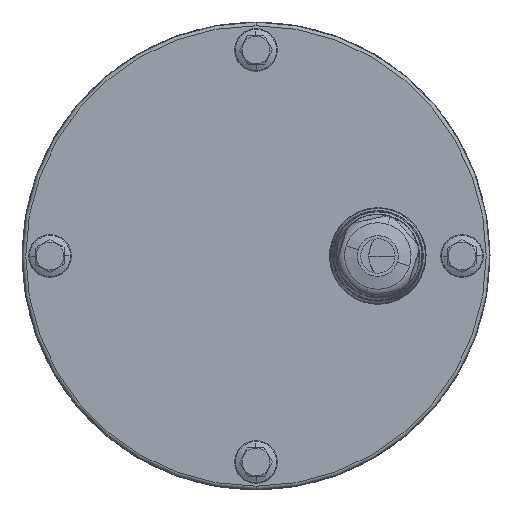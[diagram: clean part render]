
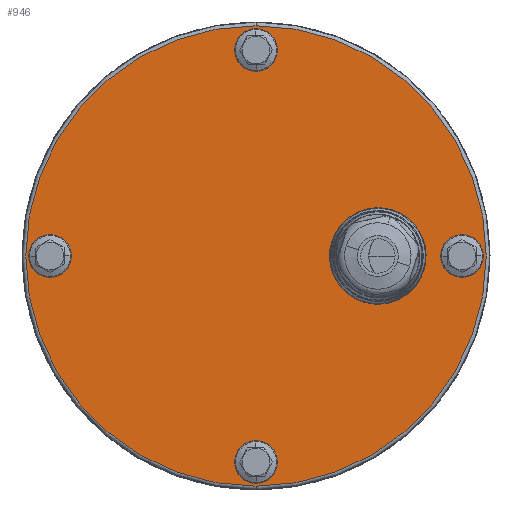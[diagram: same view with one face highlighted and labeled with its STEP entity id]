
A CAD part, left-side view. The second image highlights one B-rep face of the part: STEP entity #946.
In plain terms, the highlighted planar face has unit normal (-1, 0, 0).
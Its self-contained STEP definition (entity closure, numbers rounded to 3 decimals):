
#946=ADVANCED_FACE('',(#2327,#2328,#2329,#2330,#2331,#2332),#2333,.F.);
#2327=FACE_OUTER_BOUND('',#7701,.T.);
#2328=FACE_BOUND('',#7702,.T.);
#2329=FACE_BOUND('',#7703,.T.);
#2330=FACE_BOUND('',#7704,.T.);
#2331=FACE_BOUND('',#7705,.T.);
#2332=FACE_BOUND('',#7706,.T.);
#2333=PLANE('',#7707);
#7701=EDGE_LOOP('',(#13036,#13037));
#7702=EDGE_LOOP('',(#13038,#13039));
#7703=EDGE_LOOP('',(#13040,#13041));
#7704=EDGE_LOOP('',(#13042,#13043));
#7705=EDGE_LOOP('',(#13044,#13045));
#7706=EDGE_LOOP('',(#13046,#13047));
#7707=AXIS2_PLACEMENT_3D('',#13048,#13049,#13050);
#13036=ORIENTED_EDGE('',*,*,#16029,.T.);
#13037=ORIENTED_EDGE('',*,*,#16030,.T.);
#13038=ORIENTED_EDGE('',*,*,#16031,.F.);
#13039=ORIENTED_EDGE('',*,*,#16032,.F.);
#13040=ORIENTED_EDGE('',*,*,#16033,.F.);
#13041=ORIENTED_EDGE('',*,*,#16034,.F.);
#13042=ORIENTED_EDGE('',*,*,#16035,.F.);
#13043=ORIENTED_EDGE('',*,*,#16036,.F.);
#13044=ORIENTED_EDGE('',*,*,#16037,.F.);
#13045=ORIENTED_EDGE('',*,*,#16038,.F.);
#13046=ORIENTED_EDGE('',*,*,#16039,.T.);
#13047=ORIENTED_EDGE('',*,*,#16040,.T.);
#13048=CARTESIAN_POINT('',(-96.5,0.,0.));
#13049=DIRECTION('',(1.0,0.,0.));
#13050=DIRECTION('',(0.,1.0,0.));
#16029=EDGE_CURVE('',#18552,#18553,#18554,.T.);
#16030=EDGE_CURVE('',#18553,#18552,#18555,.T.);
#16031=EDGE_CURVE('',#18556,#18557,#18558,.T.);
#16032=EDGE_CURVE('',#18557,#18556,#18559,.T.);
#16033=EDGE_CURVE('',#18560,#18561,#18562,.T.);
#16034=EDGE_CURVE('',#18561,#18560,#18563,.T.);
#16035=EDGE_CURVE('',#18564,#18565,#18566,.T.);
#16036=EDGE_CURVE('',#18565,#18564,#18567,.T.);
#16037=EDGE_CURVE('',#18568,#18569,#18570,.T.);
#16038=EDGE_CURVE('',#18569,#18568,#18571,.T.);
#16039=EDGE_CURVE('',#18572,#18573,#18574,.T.);
#16040=EDGE_CURVE('',#18573,#18572,#18575,.T.);
#18552=VERTEX_POINT('',#25336);
#18553=VERTEX_POINT('',#25337);
#18554=CIRCLE('',#25338,64.25);
#18555=CIRCLE('',#25339,64.25);
#18556=VERTEX_POINT('',#25340);
#18557=VERTEX_POINT('',#25341);
#18558=CIRCLE('',#25342,4.75);
#18559=CIRCLE('',#25343,4.75);
#18560=VERTEX_POINT('',#25344);
#18561=VERTEX_POINT('',#25345);
#18562=CIRCLE('',#25346,4.75);
#18563=CIRCLE('',#25347,4.75);
#18564=VERTEX_POINT('',#25348);
#18565=VERTEX_POINT('',#25349);
#18566=CIRCLE('',#25350,4.75);
#18567=CIRCLE('',#25351,4.75);
#18568=VERTEX_POINT('',#25352);
#18569=VERTEX_POINT('',#25353);
#18570=CIRCLE('',#25354,4.75);
#18571=CIRCLE('',#25355,4.75);
#18572=VERTEX_POINT('',#25356);
#18573=VERTEX_POINT('',#25357);
#18574=CIRCLE('',#25358,7.45);
#18575=CIRCLE('',#25359,7.45);
#25336=CARTESIAN_POINT('',(-96.5,0.0,-64.25));
#25337=CARTESIAN_POINT('',(-96.5,0.,64.25));
#25338=AXIS2_PLACEMENT_3D('',#29285,#29286,#29287);
#25339=AXIS2_PLACEMENT_3D('',#29288,#29289,#29290);
#25340=CARTESIAN_POINT('',(-96.5,0.,-52.75));
#25341=CARTESIAN_POINT('',(-96.5,0.,-62.25));
#25342=AXIS2_PLACEMENT_3D('',#29291,#29292,#29293);
#25343=AXIS2_PLACEMENT_3D('',#29294,#29295,#29296);
#25344=CARTESIAN_POINT('',(-96.5,-57.5,4.75));
#25345=CARTESIAN_POINT('',(-96.5,-57.5,-4.75));
#25346=AXIS2_PLACEMENT_3D('',#29297,#29298,#29299);
#25347=AXIS2_PLACEMENT_3D('',#29300,#29301,#29302);
#25348=CARTESIAN_POINT('',(-96.5,0.,62.25));
#25349=CARTESIAN_POINT('',(-96.5,0.,52.75));
#25350=AXIS2_PLACEMENT_3D('',#29303,#29304,#29305);
#25351=AXIS2_PLACEMENT_3D('',#29306,#29307,#29308);
#25352=CARTESIAN_POINT('',(-96.5,57.5,4.75));
#25353=CARTESIAN_POINT('',(-96.5,57.5,-4.75));
#25354=AXIS2_PLACEMENT_3D('',#29309,#29310,#29311);
#25355=AXIS2_PLACEMENT_3D('',#29312,#29313,#29314);
#25356=CARTESIAN_POINT('',(-96.5,-34.0,7.45));
#25357=CARTESIAN_POINT('',(-96.5,-34.0,-7.45));
#25358=AXIS2_PLACEMENT_3D('',#29315,#29316,#29317);
#25359=AXIS2_PLACEMENT_3D('',#29318,#29319,#29320);
#29285=CARTESIAN_POINT('',(-96.5,0.,0.0));
#29286=DIRECTION('',(-1.0,0.,0.));
#29287=DIRECTION('',(0.,0.,-1.0));
#29288=CARTESIAN_POINT('',(-96.5,0.,0.0));
#29289=DIRECTION('',(-1.0,0.,0.));
#29290=DIRECTION('',(0.,0.,-1.0));
#29291=CARTESIAN_POINT('',(-96.5,0.,-57.5));
#29292=DIRECTION('',(-1.0,0.,0.));
#29293=DIRECTION('',(0.,1.0,0.));
#29294=CARTESIAN_POINT('',(-96.5,0.,-57.5));
#29295=DIRECTION('',(-1.0,0.,0.));
#29296=DIRECTION('',(0.,1.0,0.));
#29297=CARTESIAN_POINT('',(-96.5,-57.5,0.));
#29298=DIRECTION('',(-1.0,0.,-0.0));
#29299=DIRECTION('',(0.0,0.0,-1.0));
#29300=CARTESIAN_POINT('',(-96.5,-57.5,0.));
#29301=DIRECTION('',(-1.0,0.,-0.0));
#29302=DIRECTION('',(0.0,0.0,-1.0));
#29303=CARTESIAN_POINT('',(-96.5,0.,57.5));
#29304=DIRECTION('',(-1.0,0.,0.));
#29305=DIRECTION('',(0.0,-1.0,0.));
#29306=CARTESIAN_POINT('',(-96.5,0.,57.5));
#29307=DIRECTION('',(-1.0,0.,0.));
#29308=DIRECTION('',(0.0,-1.0,0.));
#29309=CARTESIAN_POINT('',(-96.5,57.5,0.));
#29310=DIRECTION('',(-1.0,0.,0.0));
#29311=DIRECTION('',(0.0,0.0,1.0));
#29312=CARTESIAN_POINT('',(-96.5,57.5,0.));
#29313=DIRECTION('',(-1.0,0.,0.0));
#29314=DIRECTION('',(0.0,0.0,1.0));
#29315=CARTESIAN_POINT('',(-96.5,-34.0,0.));
#29316=DIRECTION('',(1.0,0.,0.0));
#29317=DIRECTION('',(0.0,0.0,-1.0));
#29318=CARTESIAN_POINT('',(-96.5,-34.0,0.));
#29319=DIRECTION('',(1.0,0.,0.0));
#29320=DIRECTION('',(0.0,0.0,-1.0));
